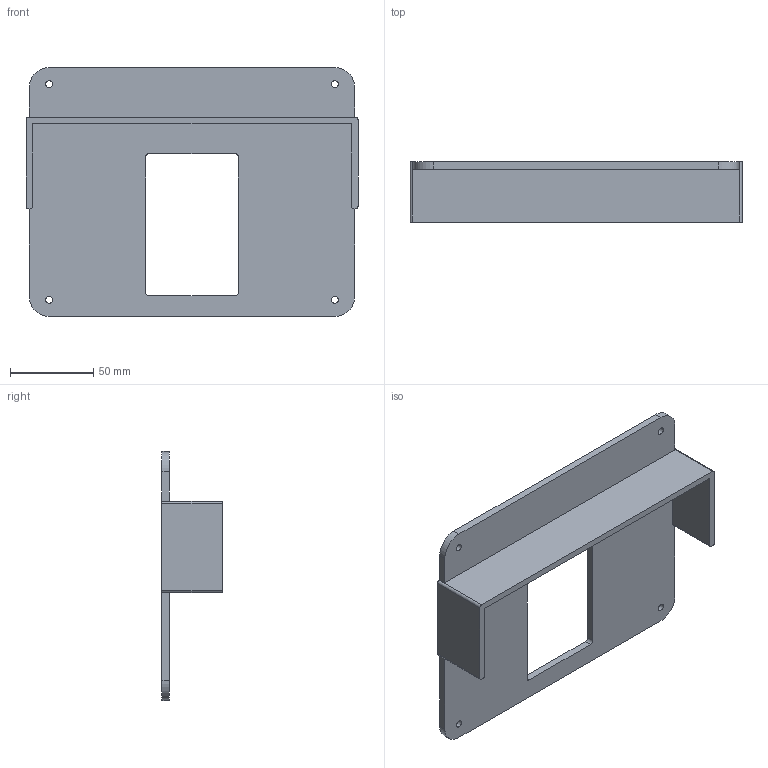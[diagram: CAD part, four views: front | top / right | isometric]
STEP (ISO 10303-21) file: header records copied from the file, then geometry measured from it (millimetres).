
FILE_DESCRIPTION(('FreeCAD Model'),'2;1');
FILE_NAME('Open CASCADE Shape Model','2026-10-14T02:28:29',('FreeCAD'),( 'FreeCAD'),'Open CASCADE STEP processor 7.8','FreeCAD','Unknown');
FILE_SCHEMA(('AUTOMOTIVE_DESIGN { 1 0 10303 214 1 1 1 1 }'));
Length unit declared in the file: millimetre
Products named in the file (1): Open CASCADE STEP translator 7.8 11
Bounding box: 200 x 36.2 x 150 mm (x, y, z)
Volume: 146799.9 mm3; surface area: 73087.5 mm2
Topology: 1 solids, 1 shells, 40 faces, 114 edges, 76 vertices
Faces by surface type: plane 22, cylinder 18
Full cylindrical faces by diameter (mm): 4.2 x4
Entity records: 1344 total; most frequent: DIRECTION 232, CARTESIAN_POINT 231, ORIENTED_EDGE 228, EDGE_CURVE 114, LINE 78, VECTOR 78, AXIS2_PLACEMENT_3D 77, VERTEX_POINT 76
